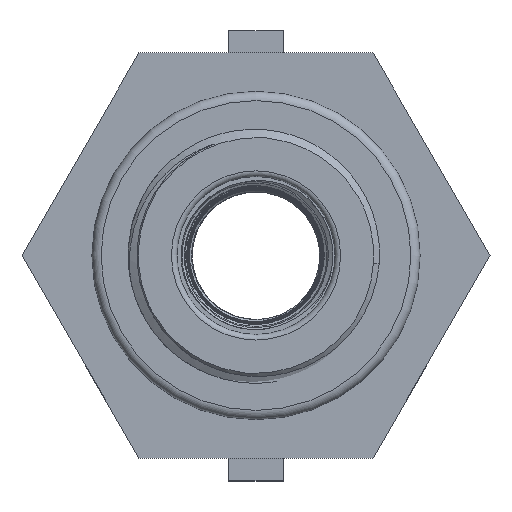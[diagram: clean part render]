
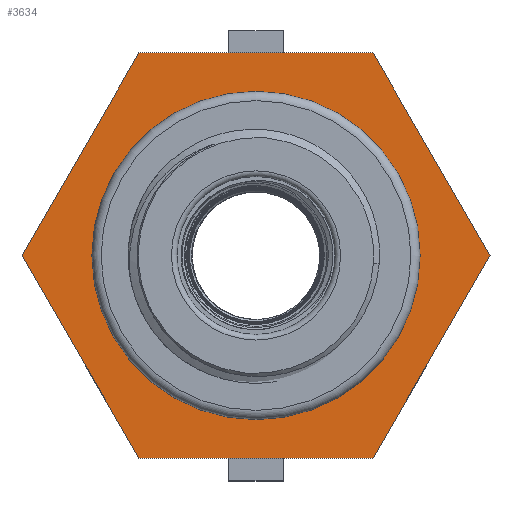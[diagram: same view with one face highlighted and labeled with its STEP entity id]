
A CAD part, top view. The second image highlights one B-rep face of the part: STEP entity #3634.
In plain terms, the highlighted planar face has unit normal (0, 0, 1) as drawn and (0, 0, -1) by its records, which use the part's own axes.
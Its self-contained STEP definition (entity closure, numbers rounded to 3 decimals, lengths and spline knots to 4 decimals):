
#742=VECTOR('',#4191,1.);
#743=VECTOR('',#4192,1.);
#744=VECTOR('',#4193,1.);
#745=VECTOR('',#4194,1.);
#746=VECTOR('',#4195,1.);
#747=VECTOR('',#4196,1.);
#883=LINE('',#39549,#742);
#884=LINE('',#39552,#743);
#885=LINE('',#39554,#744);
#886=LINE('',#39556,#745);
#887=LINE('',#39558,#746);
#888=LINE('',#39560,#747);
#1144=PLANE('',#42662);
#1489=VERTEX_POINT('',#39454);
#1502=VERTEX_POINT('',#39550);
#1503=VERTEX_POINT('',#39551);
#1504=VERTEX_POINT('',#39553);
#1505=VERTEX_POINT('',#39555);
#1506=VERTEX_POINT('',#39557);
#1507=VERTEX_POINT('',#39559);
#1616=CIRCLE('',#42650,2.2428);
#2018=EDGE_CURVE('',#1489,#1489,#1616,.T.);
#2031=EDGE_CURVE('',#1502,#1503,#883,.T.);
#2032=EDGE_CURVE('',#1504,#1502,#884,.T.);
#2033=EDGE_CURVE('',#1505,#1504,#885,.T.);
#2034=EDGE_CURVE('',#1506,#1505,#886,.T.);
#2035=EDGE_CURVE('',#1507,#1506,#887,.T.);
#2036=EDGE_CURVE('',#1503,#1507,#888,.T.);
#2883=ORIENTED_EDGE('',*,*,#2018,.T.);
#2884=ORIENTED_EDGE('',*,*,#2031,.F.);
#2885=ORIENTED_EDGE('',*,*,#2032,.F.);
#2886=ORIENTED_EDGE('',*,*,#2033,.F.);
#2887=ORIENTED_EDGE('',*,*,#2034,.F.);
#2888=ORIENTED_EDGE('',*,*,#2035,.F.);
#2889=ORIENTED_EDGE('',*,*,#2036,.F.);
#3215=EDGE_LOOP('',(#2883));
#3216=EDGE_LOOP('',(#2884,#2885,#2886,#2887,#2888,#2889));
#3438=FACE_BOUND('',#3215,.T.);
#3439=FACE_BOUND('',#3216,.T.);
#3634=ADVANCED_FACE('',(#3438,#3439),#1144,.F.);
#4169=DIRECTION('',(0.,0.,1.));
#4170=DIRECTION('',(2.243,0.,0.));
#4190=DIRECTION('',(0.,0.,1.));
#4191=DIRECTION('',(-0.5,0.866,0.));
#4192=DIRECTION('',(0.5,0.866,0.));
#4193=DIRECTION('',(1.,0.,0.));
#4194=DIRECTION('',(0.5,-0.866,0.));
#4195=DIRECTION('',(-0.5,-0.866,0.));
#4196=DIRECTION('',(-1.,0.,0.));
#39453=CARTESIAN_POINT('',(0.,0.,-0.4572));
#39454=CARTESIAN_POINT('',(-2.2428,0.,-0.4572));
#39548=CARTESIAN_POINT('',(0.,0.,-0.4572));
#39549=CARTESIAN_POINT('',(3.1969,0.,-0.4572));
#39550=CARTESIAN_POINT('',(3.1969,0.,-0.4572));
#39551=CARTESIAN_POINT('',(1.5985,2.7686,-0.4572));
#39552=CARTESIAN_POINT('',(1.5985,-2.7686,-0.4572));
#39553=CARTESIAN_POINT('',(1.5985,-2.7686,-0.4572));
#39554=CARTESIAN_POINT('',(-1.5985,-2.7686,-0.4572));
#39555=CARTESIAN_POINT('',(-1.5985,-2.7686,-0.4572));
#39556=CARTESIAN_POINT('',(-3.1969,0.,-0.4572));
#39557=CARTESIAN_POINT('',(-3.1969,0.,-0.4572));
#39558=CARTESIAN_POINT('',(-1.5985,2.7686,-0.4572));
#39559=CARTESIAN_POINT('',(-1.5985,2.7686,-0.4572));
#39560=CARTESIAN_POINT('',(1.5985,2.7686,-0.4572));
#42650=AXIS2_PLACEMENT_3D('',#39453,#4169,#4170);
#42662=AXIS2_PLACEMENT_3D('',#39548,#4190,$);
